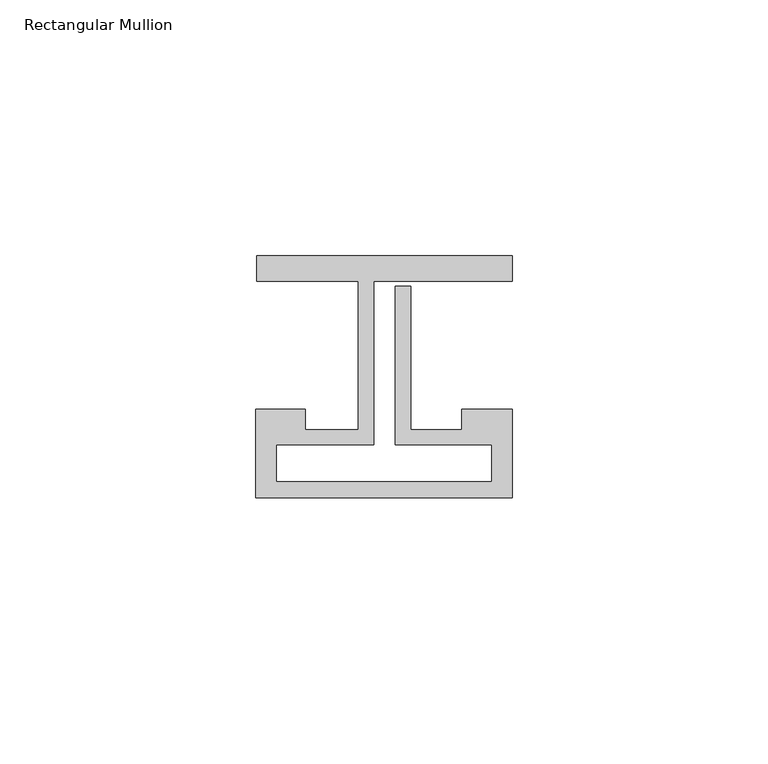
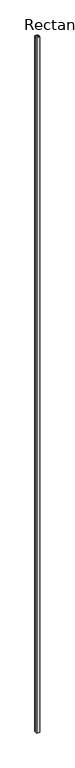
"""IFC4 building model written with IfcOpenShell, lengths in millimetres: member geometry, Rectangular Mullion : Reynaers_CW-50_Mullion-Transom_Horizontal_5mm_Facecap-02B."""

from ifc_helpers import new_model, si_unit, frame, origin, place, context, project, spatial, polyline, outline, extrude, source, transform, mapped, element, save


def rectangular_mullion_c953b7b2(model_context):
    return source(origin(), model_context, "Body", "SweptSolid", [
        extrude(outline(polyline([(-24.8004059, 17.5), (25.1995941, 17.5), (25.1995941, 12.5), (-1.9004059, 12.5), (-1.9004059, -19.5), (-20.994845, -19.5), (-20.994845, -26.7191338), (21.1995941, -26.7191338), (21.1995941, -19.5), (2.2995941, -19.5), (2.2995941, 11.5), (5.2995941, 11.5), (5.2995941, -16.5), (15.2996495, -16.5), (15.2996495, -12.5), (25.1995941, -12.5), (25.1995941, -29.8), (-24.994845, -29.8), (-24.994845, -12.5), (-15.2996495, -12.5), (-15.2996495, -16.5), (-4.9004059, -16.5), (-4.9004059, 12.5), (-24.8004059, 12.5), (-24.8004059, 17.5)])), frame((0.0, 0.0, -12000.0), z_axis=(0.0, 0.0, 1.0), x_axis=(1.0, 0.0, 0.0)), (0.0, 0.0, 1.0), 12000.0),
    ])


if __name__ == "__main__":
    model = new_model("IFC4")
    model_context = context("Model", 3, world=origin())
    ifc_project = project(units=[si_unit("LENGTHUNIT", "METRE", prefix="MILLI")], contexts=[model_context])
    site = spatial("IfcSite", under=ifc_project)
    building = spatial("IfcBuilding", under=site)
    placement = place(None, origin())
    rectangular_mullion_shape = rectangular_mullion_c953b7b2(model_context)
    element("IfcMember", 1, ObjectType="Rectangular Mullion : Reynaers_CW-50_Mullion-Transom_Horizontal_5mm_Facecap-02B", at=placement, inside=building, context=model_context, shape_type="MappedRepresentation", body=[
        mapped(rectangular_mullion_shape, transform((0.0, 0.0, 0.0), x_axis=(1.0, 0.0, 0.0), y_axis=(0.0, 1.0, 0.0), z_axis=(0.0, 0.0, 1.0))),
    ])
    save(model, "model.ifc")
